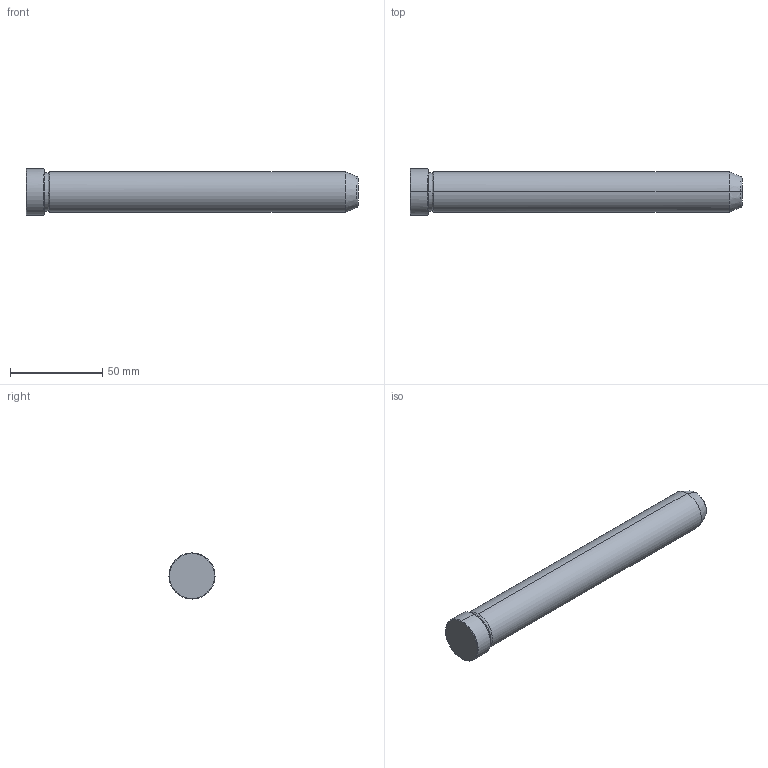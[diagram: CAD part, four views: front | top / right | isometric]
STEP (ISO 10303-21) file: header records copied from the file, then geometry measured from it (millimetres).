
FILE_DESCRIPTION(('CATIA V5 STEP Exchange'),'2;1');
FILE_NAME('C:\Users\Utente\Desktop\IO LAVORO\3D X SITO CF\X SITO\PLASTICA\549\549-22X180.stp','2021-12-13T12:57:19+00:00',('none'),('none'),'CATIA Version 5 Release 20 GA (IN-10)','CATIA V5 STEP AP203','none');
FILE_SCHEMA(('CONFIG_CONTROL_DESIGN'));
Length unit declared in the file: millimetre
Products named in the file (1): 549-22X180
Bounding box: 180 x 25 x 25 mm (x, y, z)
Volume: 68812.4 mm3; surface area: 13316.1 mm2
Topology: 1 solids, 1 shells, 19 faces, 56 edges, 40 vertices
Faces by surface type: cone 8, cylinder 6, plane 3, torus 2
Entity records: 736 total; most frequent: CARTESIAN_POINT 192, ORIENTED_EDGE 112, DIRECTION 86, EDGE_CURVE 56, AXIS2_PLACEMENT_3D 54, VERTEX_POINT 40, CIRCLE 34, EDGE_LOOP 20
